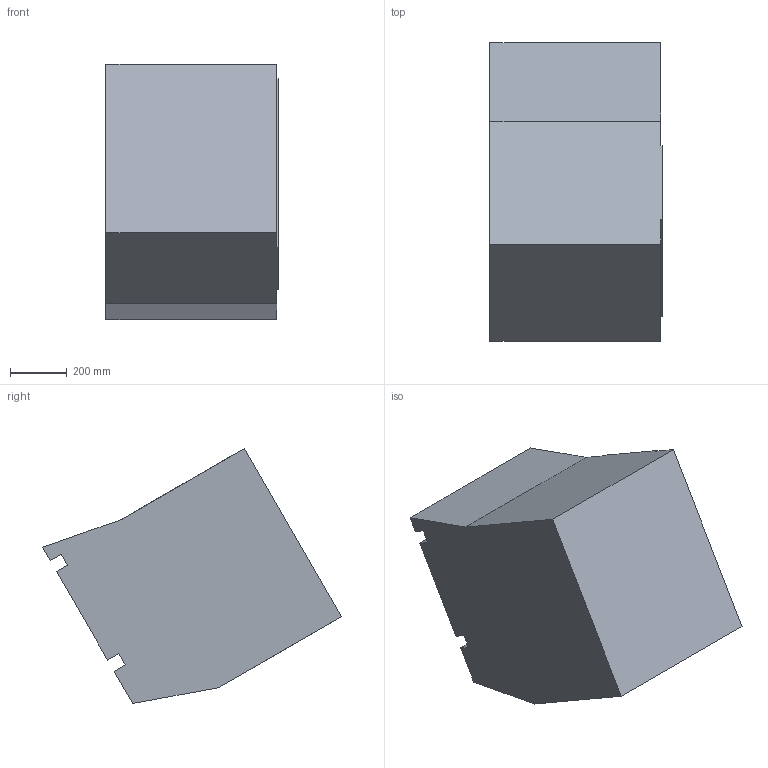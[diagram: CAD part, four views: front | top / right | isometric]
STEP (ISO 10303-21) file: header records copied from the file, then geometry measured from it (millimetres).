
FILE_DESCRIPTION(('CATIA V5 STEP Exchange'),'2;1');
FILE_NAME('D:\Clients_NCS8\Cenit-AG\Import\OKUMA250\Z2.stp','2005-03-09T17:04:08+00:00',('none'),('none'),'CATIA Version 5 Release 14 (IN-10)','CATIA V5 STEP AP203','none');
FILE_SCHEMA(('CONFIG_CONTROL_DESIGN'));
Length unit declared in the file: millimetre
Products named in the file (1): revolver_fundament
Bounding box: 605 x 1050.46 x 896.61 mm (x, y, z)
Volume: 317083353.5 mm3; surface area: 2920323.3 mm2
Topology: 1 solids, 1 shells, 20 faces, 54 edges, 36 vertices
Faces by surface type: plane 20
Entity records: 635 total; most frequent: ORIENTED_EDGE 108, CARTESIAN_POINT 106, DIRECTION 84, VECTOR 54, EDGE_CURVE 54, LINE 54, VERTEX_POINT 36, ADVANCED_FACE 20
